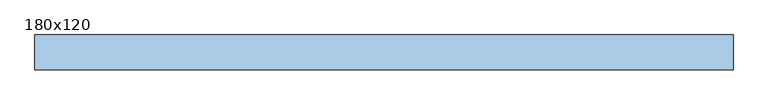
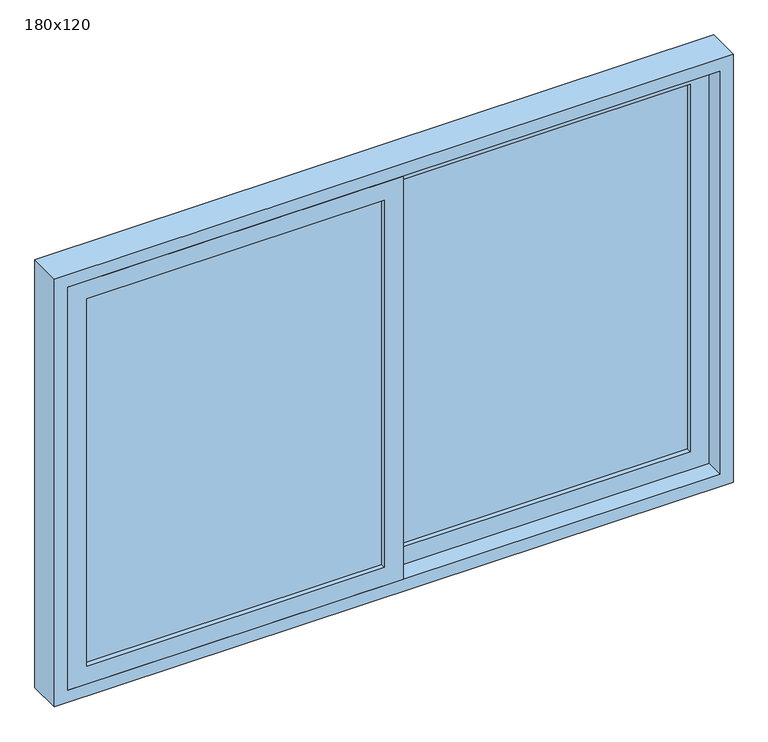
"""IFC4 building model written with IfcOpenShell, lengths in millimetres: window geometry, Janela de correr - 2 Painéis : 180x120."""

import ifcopenshell
import ifcopenshell.guid

model = None  # the IFC model being written
_history = None  # IfcOwnerHistory: only IFC2X3 demands one
_inside = {}  # id of a spatial element -> (the spatial element, [elements in it])
_under = {}  # id of a project, library or spatial element -> (it, [spatial elements below it])
_declared = {}  # id of a project -> (the project, [libraries it declares])
_typed = {}  # id of a type object -> (the type object, [elements of that type])
_made_of = {}  # id of a material, layer set ... -> (it, [elements and type objects made of it])


def new_model(schema):
    """Start an empty IFC model of exactly this schema.

    Asked for "IFC4X3", IfcOpenShell would pick the latest addendum, in which some entities
    have other attributes; the version numbers below select the first issue.
    IFC2X3 requires an IfcOwnerHistory on every rooted entity: one is made here for all.
    """
    global model, _history
    if schema == "IFC4X3":
        model = ifcopenshell.file(schema_version=(4, 3, 0, 0))
    else:
        model = ifcopenshell.file(schema=schema)
    _inside.clear()
    _under.clear()
    _declared.clear()
    _typed.clear()
    _made_of.clear()
    _history = None
    if model.schema == "IFC2X3":
        org = make("IfcOrganization", Name="unknown")
        user = make(
            "IfcPersonAndOrganization",
            ThePerson=make("IfcPerson", FamilyName="unknown"),
            TheOrganization=org,
        )
        app = make(
            "IfcApplication",
            ApplicationDeveloper=org,
            Version="unknown",
            ApplicationFullName="unknown",
            ApplicationIdentifier="unknown",
        )
        _history = make(
            "IfcOwnerHistory",
            OwningUser=user,
            OwningApplication=app,
            ChangeAction="ADDED",
            CreationDate=0,
        )
    return model


def make(cls, **values):
    """One entity of the class cls with the attributes given. An attribute that is None is left unset."""
    return model.create_entity(
        cls, **{name: value for name, value in values.items() if value is not None}
    )


def rooted(cls, **values):
    """An entity with a GlobalId (a new one), such as an element, a storey or a relation."""
    return make(cls, GlobalId=ifcopenshell.guid.new(), OwnerHistory=_history, **values)


def si_unit(unit_type, name, prefix=None):
    """IfcSIUnit, for example si_unit("LENGTHUNIT", "METRE", prefix="MILLI")."""
    return make("IfcSIUnit", UnitType=unit_type, Prefix=prefix, Name=name)


def assignment(units):
    """IfcUnitAssignment: the units of a project."""
    return None if units is None else make("IfcUnitAssignment", Units=units)


def point(xyz):
    """IfcCartesianPoint."""
    return None if xyz is None else make("IfcCartesianPoint", Coordinates=xyz)


def direction(xyz):
    """IfcDirection."""
    return None if xyz is None else make("IfcDirection", DirectionRatios=xyz)


def frame(location, z_axis=None, x_axis=None):
    """IfcAxis2Placement3D, a coordinate frame: its origin and axes. An axis left out is left unset."""
    return make(
        "IfcAxis2Placement3D",
        Location=point(location),
        Axis=direction(z_axis),
        RefDirection=direction(x_axis),
    )


def origin():
    """The frame at (0, 0, 0) with its axes left unset."""
    return frame((0.0, 0.0, 0.0))


def place(relative_to, where):
    """IfcLocalPlacement: puts the frame where relative to a parent placement (None: the world)."""
    return make(
        "IfcLocalPlacement", PlacementRelTo=relative_to, RelativePlacement=where
    )


def context(
    kind, dimensions, precision=None, world=None, true_north=None, identifier=None
):
    """IfcGeometricRepresentationContext, for example the 3D "Model" context."""
    return make(
        "IfcGeometricRepresentationContext",
        ContextIdentifier=identifier,
        ContextType=kind,
        CoordinateSpaceDimension=dimensions,
        Precision=precision,
        WorldCoordinateSystem=world,
        TrueNorth=true_north,
    )


def project(units=None, contexts=None):
    """IfcProject with its units and contexts."""
    return rooted(
        "IfcProject",
        Name="project",
        RepresentationContexts=contexts,
        UnitsInContext=assignment(units),
    )


def spatial(cls, under=None, at=None, **own):
    """A site, building, storey or space (cls), placed at a placement, below another one or the project."""
    s = rooted(cls, ObjectPlacement=at, **own)
    if under is not None:
        _under.setdefault(under.id(), (under, []))[1].append(s)
    return s


def polyline(points):
    """IfcPolyline through the points."""
    return make("IfcPolyline", Points=[point(p) for p in points])


def outline(outer, holes=None, kind="AREA"):
    """IfcArbitraryClosedProfileDef: a profile drawn as a closed curve; with holes, ...WithVoids."""
    if holes is None:
        return make("IfcArbitraryClosedProfileDef", ProfileType=kind, OuterCurve=outer)
    return make(
        "IfcArbitraryProfileDefWithVoids",
        ProfileType=kind,
        OuterCurve=outer,
        InnerCurves=holes,
    )


def extrude(swept, where, along, depth):
    """IfcExtrudedAreaSolid: the profile swept, set in the frame where, extruded along a direction by depth."""
    return make(
        "IfcExtrudedAreaSolid",
        SweptArea=swept,
        Position=where,
        ExtrudedDirection=direction(along),
        Depth=depth,
    )


def shape(context_of_items, identifier, shape_type, items):
    """IfcShapeRepresentation: the items that make up one representation, for example the "Body"."""
    return make(
        "IfcShapeRepresentation",
        ContextOfItems=context_of_items,
        RepresentationIdentifier=identifier,
        RepresentationType=shape_type,
        Items=items,
    )


def source(mapping_origin, context_of_items, identifier, shape_type, items):
    """IfcRepresentationMap: a shape defined once, which mapped items show again and again."""
    return make(
        "IfcRepresentationMap",
        MappingOrigin=mapping_origin,
        MappedRepresentation=shape(context_of_items, identifier, shape_type, items),
    )


def transform(
    local_origin,
    x_axis=None,
    y_axis=None,
    z_axis=None,
    scale=None,
    scale2=None,
    scale3=None,
    uniform=True,
):
    """IfcCartesianTransformationOperator3D, or its non-uniform kind. x_axis, y_axis, z_axis: its Axis1, 2, 3."""
    if uniform:
        return make(
            "IfcCartesianTransformationOperator3D",
            Axis1=direction(x_axis),
            Axis2=direction(y_axis),
            LocalOrigin=point(local_origin),
            Scale=scale,
            Axis3=direction(z_axis),
        )
    return make(
        "IfcCartesianTransformationOperator3DnonUniform",
        Axis1=direction(x_axis),
        Axis2=direction(y_axis),
        LocalOrigin=point(local_origin),
        Scale=scale,
        Axis3=direction(z_axis),
        Scale2=scale2,
        Scale3=scale3,
    )


def mapped(mapping_source, mapping_target):
    """IfcMappedItem: shows the shape of a source again, moved by a transform."""
    return make(
        "IfcMappedItem", MappingSource=mapping_source, MappingTarget=mapping_target
    )


def made_of(thing, what):
    """Note that an element or type object is made of a material, layer set ...; save() writes the relation."""
    if what is not None:
        _made_of.setdefault(what.id(), (what, []))[1].append(thing)
    return thing


def element(
    cls,
    number,
    at=None,
    inside=None,
    cuts=None,
    type_object=None,
    material=None,
    context=None,
    identifier="Body",
    shape_type=None,
    held_by="IfcProductDefinitionShape",
    body=None,
    shapes=None,
    **own,
):
    """One element of the class cls, such as IfcWall. Its Tag is "e" and its number.

    at: its placement. inside: the storey or other place that contains it. cuts: it is an
    opening in that element (IfcRelVoidsElement). A single representation is given by context,
    identifier, shape_type and body (its items); several are given by shapes. held_by: the class
    of the entity that holds the representations. save() writes the other relations.
    """
    e = rooted(cls, Tag="e%d" % number, ObjectPlacement=at, **own)
    if body is not None:
        shapes = [shape(context, identifier, shape_type, body)]
    if shapes is not None:
        e.Representation = make(held_by, Representations=shapes)
    if inside is not None:
        _inside.setdefault(inside.id(), (inside, []))[1].append(e)
    if cuts is not None:
        rooted(
            "IfcRelVoidsElement", RelatingBuildingElement=cuts, RelatedOpeningElement=e
        )
    if type_object is not None:
        _typed.setdefault(type_object.id(), (type_object, []))[1].append(e)
    return made_of(e, material)


def aggregate(whole, parts):
    """IfcRelAggregates: a whole, such as a stair, and the parts it consists of."""
    return rooted("IfcRelAggregates", RelatingObject=whole, RelatedObjects=parts)


def save(model, path):
    """Write the relations noted so far, then the file.

    IfcRelAggregates (storeys below a building ...), IfcRelContainedInSpatialStructure (elements
    in a storey), IfcRelDefinesByType, IfcRelAssociatesMaterial and IfcRelDeclares: one each for
    every whole, place, type object, material and project.
    """
    for whole, parts in _under.values():
        aggregate(whole, parts)
    for where, things in _inside.values():
        rooted(
            "IfcRelContainedInSpatialStructure",
            RelatedElements=things,
            RelatingStructure=where,
        )
    for kind, things in _typed.values():
        rooted("IfcRelDefinesByType", RelatedObjects=things, RelatingType=kind)
    for what, things in _made_of.values():
        rooted("IfcRelAssociatesMaterial", RelatedObjects=things, RelatingMaterial=what)
    for by, libraries in _declared.values():
        rooted("IfcRelDeclares", RelatingContext=by, RelatedDefinitions=libraries)
    model.write(path)


def window_180x120_4d49b7f3(model_context):
    return source(origin(), model_context, "Body", "SweptSolid", [
        extrude(outline(polyline([(685.0, -25.0), (685.0, 865.0), (1815.0, 865.0), (1815.0, -25.0), (685.0, -25.0)]), holes=[polyline([(1765.0, 25.0), (1765.0, 815.0), (735.0, 815.0), (735.0, 25.0), (1765.0, 25.0)])]), frame((0.0, 42.0, 0.0), z_axis=(0.0, 1.0, 0.0), x_axis=(0.0, 0.0, 1.0)), (0.0, 0.0, 1.0), 40.0),
        extrude(outline(polyline([(1815.0, 25.0), (1815.0, -865.0), (685.0, -865.0), (685.0, 25.0), (1815.0, 25.0)]), holes=[polyline([(735.0, -25.0), (735.0, -815.0), (1765.0, -815.0), (1765.0, -25.0), (735.0, -25.0)])]), frame((0.0, -8.0, 0.0), z_axis=(0.0, 1.0, 0.0), x_axis=(0.0, 0.0, 1.0)), (0.0, 0.0, 1.0), 40.0),
        extrude(outline(polyline([(1850.0, 900.0), (1850.0, -900.0), (650.0, -900.0), (650.0, 900.0), (1850.0, 900.0)]), holes=[polyline([(685.0, 865.0), (685.0, -865.0), (1815.0, -865.0), (1815.0, 865.0), (685.0, 865.0)])]), frame((0.0, -8.0, 0.0), z_axis=(0.0, 1.0, 0.0), x_axis=(0.0, 0.0, 1.0)), (0.0, 0.0, 1.0), 90.0),
        extrude(outline(polyline([(25.0, 69.0), (815.0, 69.0), (815.0, 55.0), (25.0, 55.0), (25.0, 69.0)])), frame((0.0, 0.0, 735.0), z_axis=(0.0, 0.0, 1.0), x_axis=(1.0, 0.0, 0.0)), (0.0, 0.0, 1.0), 1030.0),
        extrude(outline(polyline([(-815.0, 19.0), (-25.0, 19.0), (-25.0, 5.0), (-815.0, 5.0), (-815.0, 19.0)])), frame((0.0, 0.0, 735.0), z_axis=(0.0, 0.0, 1.0), x_axis=(1.0, 0.0, 0.0)), (0.0, 0.0, 1.0), 1030.0),
    ])


if __name__ == "__main__":
    model = new_model("IFC4")
    model_context = context("Model", 3, world=origin())
    ifc_project = project(units=[si_unit("LENGTHUNIT", "METRE", prefix="MILLI")], contexts=[model_context])
    site = spatial("IfcSite", under=ifc_project)
    building = spatial("IfcBuilding", under=site)
    placement = place(None, origin())
    window_180x120_shape = window_180x120_4d49b7f3(model_context)
    element("IfcWindow", 1, ObjectType="Janela de correr - 2 Painéis : 180x120", at=placement, inside=building, context=model_context, shape_type="MappedRepresentation", body=[
        mapped(window_180x120_shape, transform((0.0, 0.0, 0.0), x_axis=(1.0, 0.0, 0.0), y_axis=(0.0, 1.0, 0.0), z_axis=(0.0, 0.0, 1.0))),
    ])
    save(model, "model.ifc")
